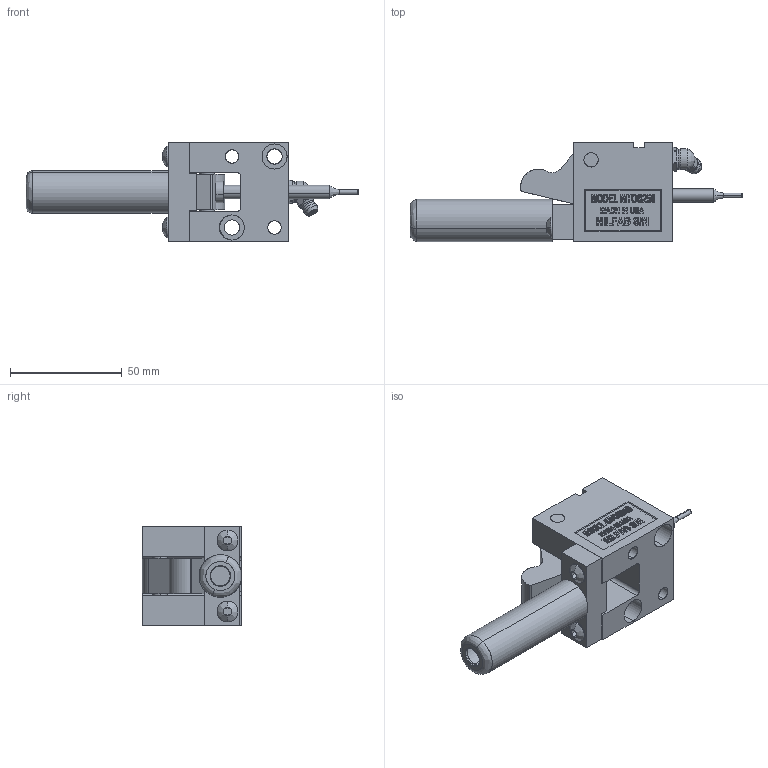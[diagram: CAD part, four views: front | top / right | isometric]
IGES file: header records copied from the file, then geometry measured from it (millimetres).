
Start section: SolidWorks IGES file using analytic representation for surfaces
Global section: file name: Y:\METRIC With OFFSETRIGGER\TOPMOUNT\MTOS25045\CLOSED\MTOS25045-C.IGS; native system: SolidWorks 2006 by SolidWorks Corporation; preprocessor: SolidWorks 2006 by SolidWorks Corporation; author: Jim; date: 090121.113633; units: inch
Bounding box: 148.44 x 44.45 x 44.45 mm (x, y, z)
Surface area: 36136.5 mm2 (no closed solid volume)
Topology: 0 solids, 0 shells, 601 faces, 7286 edges, 7282 vertices
Faces by surface type: bspline 489, revolution 112
